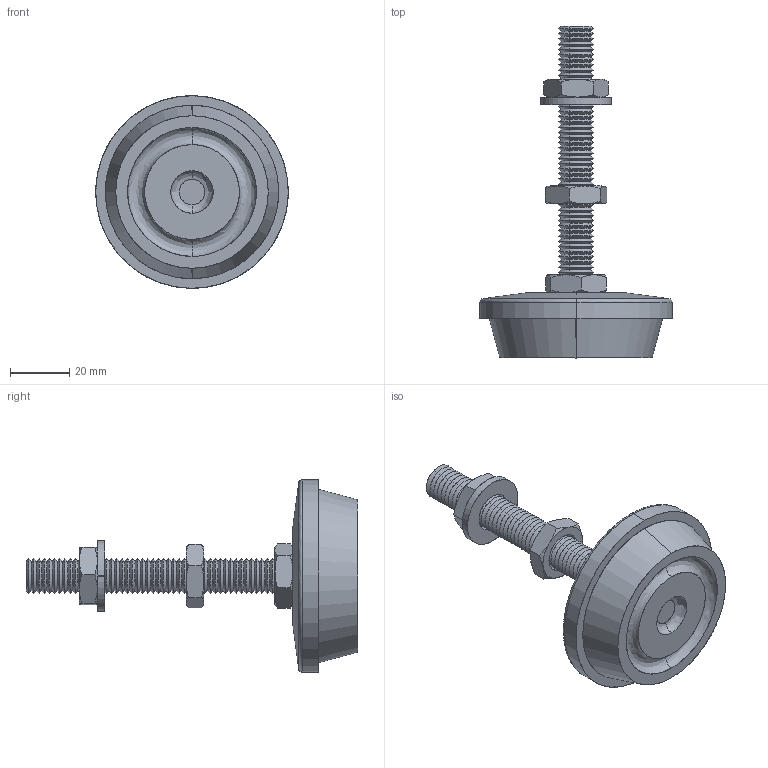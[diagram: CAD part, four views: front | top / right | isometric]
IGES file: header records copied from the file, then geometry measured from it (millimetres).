
Start section: SolidWorks IGES file using analytic representation for surfaces
Global section: file name: C:\Documents and Settings\IANO\Desktop\Temp File\Process pending\EXISTING\34930_v2\34930_v2_20170626_IGES\34930.W0065.igs; native system: SolidWorks 2009; preprocessor: SolidWorks 2009; author: IANO; date: 170626.131421; units: millimetre
Bounding box: 65 x 112 x 65 mm (x, y, z)
Surface area: 25287.2 mm2 (no closed solid volume)
Topology: 0 solids, 0 shells, 333 faces, 3008 edges, 3008 vertices
Faces by surface type: revolution 292, bspline 41
